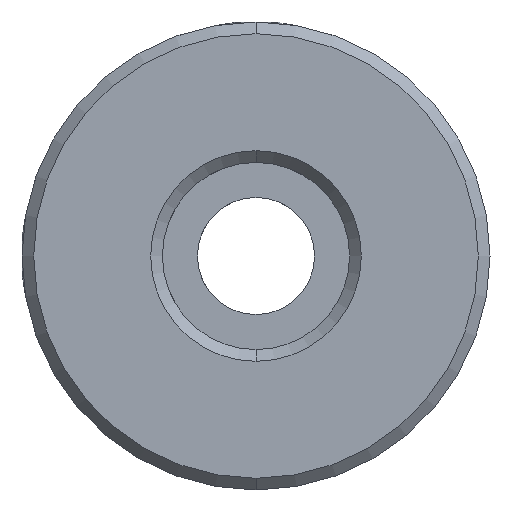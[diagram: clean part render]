
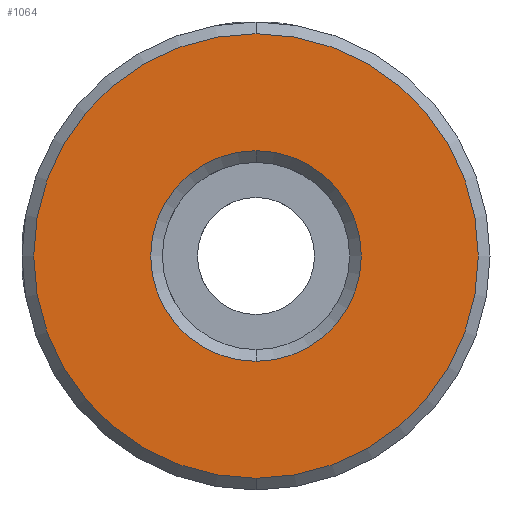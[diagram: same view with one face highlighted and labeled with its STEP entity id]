
A CAD part, front view. The second image highlights one B-rep face of the part: STEP entity #1064.
In plain terms, the highlighted planar face has unit normal (0, -1, 0).
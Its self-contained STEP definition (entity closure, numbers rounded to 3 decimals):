
#263 = EDGE_CURVE ( 'NONE', #2970, #1534, #782, .T. ) ;
#305 = EDGE_CURVE ( 'NONE', #1132, #2566, #437, .T. ) ;
#340 = CARTESIAN_POINT ( 'NONE',  ( -10.188, -0.277, -9.454 ) ) ;
#437 = CIRCLE ( 'NONE', #1312, 9.5 ) ;
#438 = AXIS2_PLACEMENT_3D ( 'NONE', #2100, #916, #2041 ) ;
#544 = FACE_OUTER_BOUND ( 'NONE', #2816, .T. ) ;
#553 = DIRECTION ( 'NONE',  ( 0., 0., 1. ) ) ;
#752 = DIRECTION ( 'NONE',  ( 0., 1., 0. ) ) ;
#782 = CIRCLE ( 'NONE', #438, 4.5 ) ;
#898 = EDGE_CURVE ( 'NONE', #1534, #2970, #3012, .T. ) ;
#916 = DIRECTION ( 'NONE',  ( 0., 1., 0. ) ) ;
#1064 = ADVANCED_FACE ( 'NONE', ( #544, #2214 ), #1351, .F. ) ;
#1095 = ORIENTED_EDGE ( 'NONE', *, *, #263, .T. ) ;
#1132 = VERTEX_POINT ( 'NONE', #340 ) ;
#1312 = AXIS2_PLACEMENT_3D ( 'NONE', #2341, #3156, #2559 ) ;
#1351 = PLANE ( 'NONE',  #1353 ) ;
#1353 = AXIS2_PLACEMENT_3D ( 'NONE', #3279, #752, #2814 ) ;
#1398 = CARTESIAN_POINT ( 'NONE',  ( -10.188, -0.277, -4.454 ) ) ;
#1403 = ORIENTED_EDGE ( 'NONE', *, *, #3356, .T. ) ;
#1534 = VERTEX_POINT ( 'NONE', #1398 ) ;
#1814 = CARTESIAN_POINT ( 'NONE',  ( -10.188, -0.277, 0.046 ) ) ;
#2041 = DIRECTION ( 'NONE',  ( 0., 0., 1. ) ) ;
#2100 = CARTESIAN_POINT ( 'NONE',  ( -10.188, -0.277, 0.046 ) ) ;
#2182 = ORIENTED_EDGE ( 'NONE', *, *, #898, .T. ) ;
#2214 = FACE_BOUND ( 'NONE', #3599, .T. ) ;
#2237 = CARTESIAN_POINT ( 'NONE',  ( -10.188, -0.277, 0.046 ) ) ;
#2238 = CARTESIAN_POINT ( 'NONE',  ( -10.188, -0.277, 4.546 ) ) ;
#2341 = CARTESIAN_POINT ( 'NONE',  ( -10.188, -0.277, 0.046 ) ) ;
#2369 = DIRECTION ( 'NONE',  ( 0., 1., 0. ) ) ;
#2559 = DIRECTION ( 'NONE',  ( 0., 0., 1. ) ) ;
#2566 = VERTEX_POINT ( 'NONE', #3125 ) ;
#2645 = ORIENTED_EDGE ( 'NONE', *, *, #305, .T. ) ;
#2814 = DIRECTION ( 'NONE',  ( 0., 0., 1. ) ) ;
#2816 = EDGE_LOOP ( 'NONE', ( #1403, #2645 ) ) ;
#2970 = VERTEX_POINT ( 'NONE', #2238 ) ;
#2971 = DIRECTION ( 'NONE',  ( 0., 0., 1. ) ) ;
#3012 = CIRCLE ( 'NONE', #3603, 4.5 ) ;
#3061 = AXIS2_PLACEMENT_3D ( 'NONE', #2237, #3358, #553 ) ;
#3125 = CARTESIAN_POINT ( 'NONE',  ( -10.188, -0.277, 9.546 ) ) ;
#3156 = DIRECTION ( 'NONE',  ( 0., -1., 0. ) ) ;
#3279 = CARTESIAN_POINT ( 'NONE',  ( -10.188, -0.277, 0.046 ) ) ;
#3356 = EDGE_CURVE ( 'NONE', #2566, #1132, #3525, .T. ) ;
#3358 = DIRECTION ( 'NONE',  ( 0., -1., 0. ) ) ;
#3525 = CIRCLE ( 'NONE', #3061, 9.5 ) ;
#3599 = EDGE_LOOP ( 'NONE', ( #2182, #1095 ) ) ;
#3603 = AXIS2_PLACEMENT_3D ( 'NONE', #1814, #2369, #2971 ) ;
